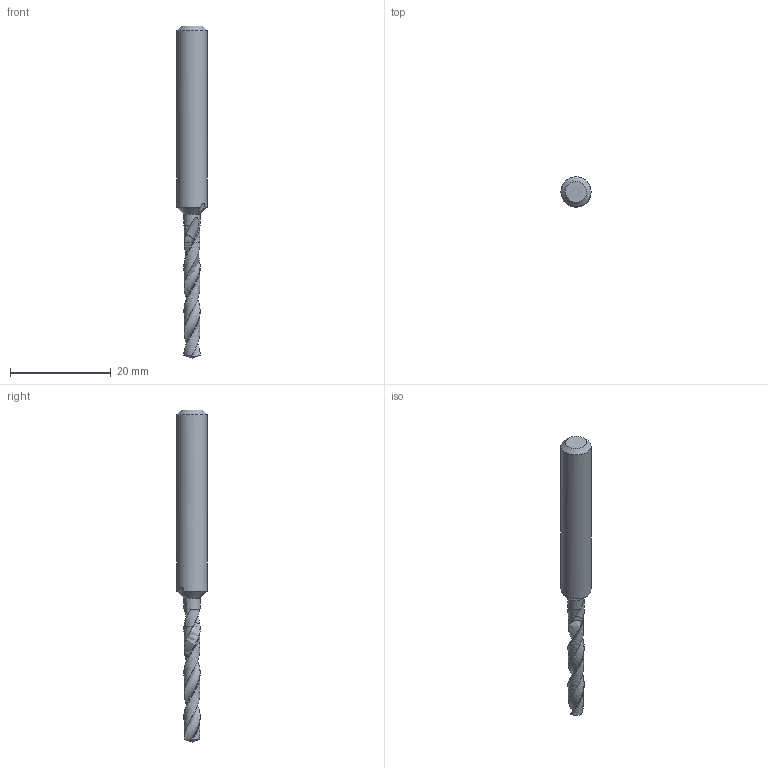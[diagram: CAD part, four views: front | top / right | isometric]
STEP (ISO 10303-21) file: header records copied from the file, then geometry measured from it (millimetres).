
FILE_DESCRIPTION(/* description */ (''),/* implementation_level */ '2;1');
FILE_NAME(/* name */ 'PLM~180329165744~TIX~0160~7462064~MOD~TM02_00~DC150-05-03.250A0-WJ30TA_ISO~FR.STP',/* time_stamp */ '2018-03-29T17:04:37+02:00',/* author */ ('VR - J.Pauli'),/* organization */ ('Walter AG'),/* preprocessor_version */ 'ST-DEVELOPER v15',/* originating_system */ 'SIEMENS PLM Software NX 8.5',/* authorisation */ '');
FILE_SCHEMA (('AUTOMOTIVE_DESIGN { 1 0 10303 214 3 1 1 1 }'));
Length unit declared in the file: millimetre
Products named in the file (1): PLM~180329165744~TIX~0160~7462064~MOD~TM02_00~DC150-05-03.250A0-WJ30T
A_ISO~FR
Bounding box: 6 x 6 x 66 mm (x, y, z)
Volume: 1168.8 mm3; surface area: 1033.3 mm2
Topology: 2 solids, 2 shells, 24 faces, 63 edges, 45 vertices
Faces by surface type: bspline 8, cone 6, plane 5, cylinder 5
Full cylindrical faces by diameter (mm): 6 x1
Entity records: 15006 total; most frequent: CARTESIAN_POINT 14478, ORIENTED_EDGE 102, DIRECTION 73, EDGE_CURVE 51, VERTEX_POINT 36, B_SPLINE_CURVE_WITH_KNOTS 36, AXIS2_PLACEMENT_3D 35, EDGE_LOOP 28
